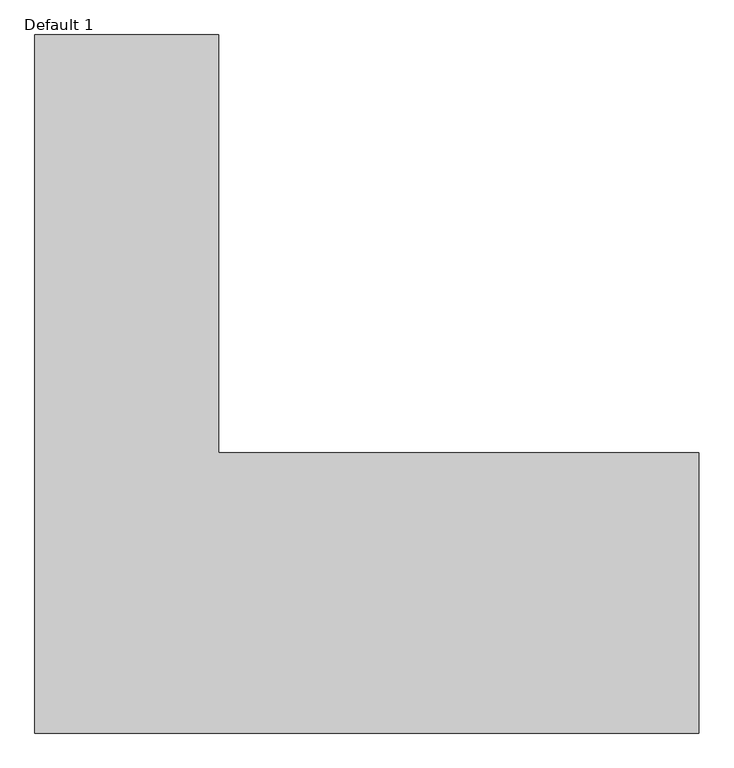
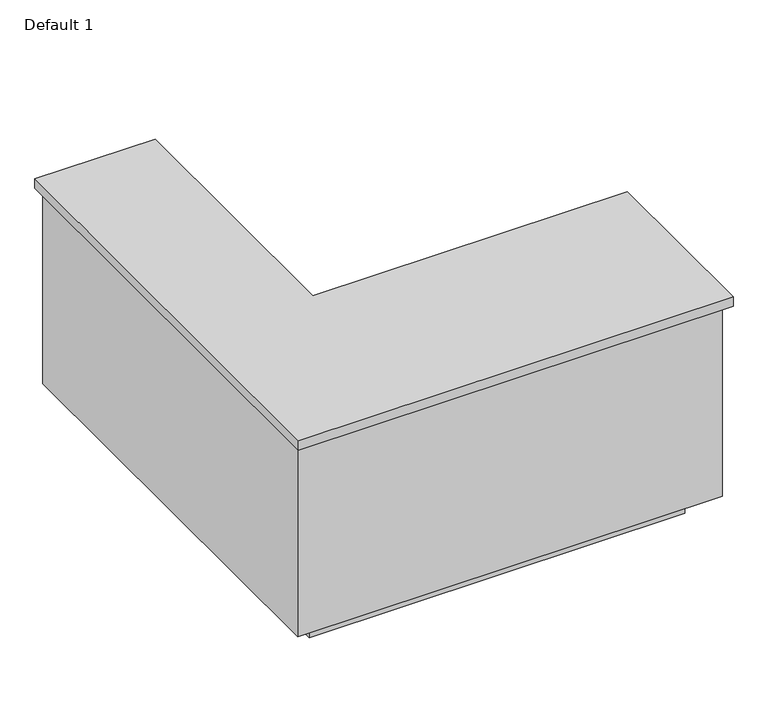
"""IFC4 building model written with IfcOpenShell, lengths in millimetres: proxy geometry, Countertop- L  Shape base : Default 1."""

from ifc_helpers import new_model, si_unit, frame, origin, origin_with_axes, place, context, project, spatial, polyline, outline, extrude, source, transform, mapped, element, save


def default_1_6962a21b(model_context):
    return source(origin(), model_context, "Body", "SweptSolid", [
        extrude(outline(polyline([(-117.25, -19.05), (-117.25, 1705.5831767), (337.05, 1705.5831767), (337.05, 673.1), (1524.5, 673.1), (1524.5, -19.05), (-117.25, -19.05)])), frame((0.0, 0.0, 876.3), z_axis=(0.0, 0.0, 1.0), x_axis=(1.0, 0.0, 0.0)), (0.0, 0.0, 1.0), 38.1),
        extrude(outline(polyline([(1505.45, 654.05), (1505.45, 19.05), (-98.2, 19.05), (-98.2, 1686.5331767), (318.0, 1686.5331767), (318.0, 654.05), (1505.45, 654.05)])), frame((0.0, 0.0, 101.6), z_axis=(0.0, 0.0, 1.0), x_axis=(1.0, 0.0, 0.0)), (0.0, 0.0, 1.0), 774.7),
        extrude(outline(polyline([(241.6454163, 1584.9331767), (241.6454163, 552.45), (1422.9, 552.45), (1422.9, 120.65), (3.4, 120.65), (3.4, 1584.9331767), (241.6454163, 1584.9331767)])), origin_with_axes(), (0.0, 0.0, 1.0), 101.6),
    ])


if __name__ == "__main__":
    model = new_model("IFC4")
    model_context = context("Model", 3, world=origin())
    ifc_project = project(units=[si_unit("LENGTHUNIT", "METRE", prefix="MILLI")], contexts=[model_context])
    site = spatial("IfcSite", under=ifc_project)
    building = spatial("IfcBuilding", under=site)
    placement = place(None, origin())
    default_1_shape = default_1_6962a21b(model_context)
    element("IfcBuildingElementProxy", 1, Name="Countertop- L  Shape base : Default 1", ObjectType="Countertop- L  Shape base : Default 1", at=placement, inside=building, context=model_context, shape_type="MappedRepresentation", body=[
        mapped(default_1_shape, transform((0.0, 0.0, 0.0), x_axis=(1.0, 0.0, 0.0), y_axis=(0.0, 1.0, 0.0), z_axis=(0.0, 0.0, 1.0))),
    ])
    save(model, "model.ifc")
